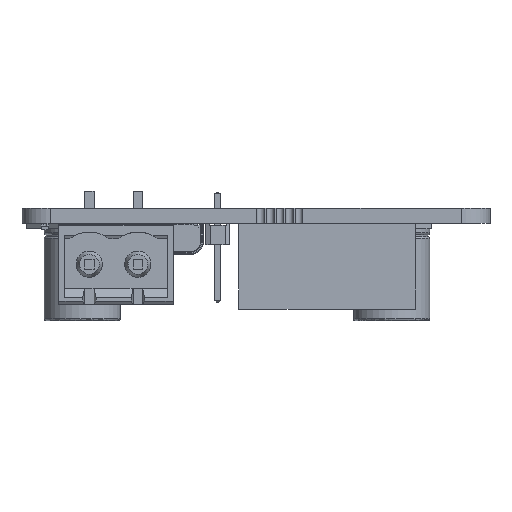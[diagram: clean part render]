
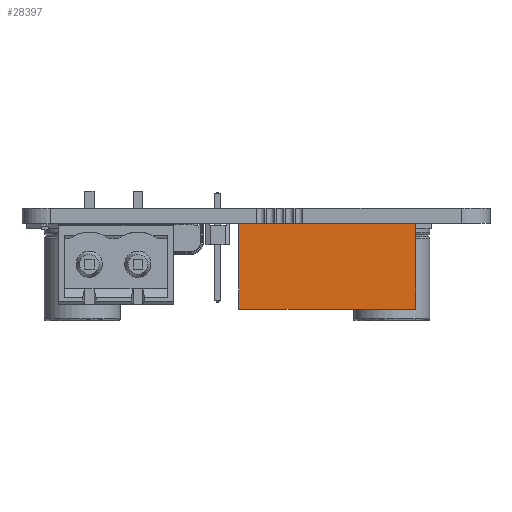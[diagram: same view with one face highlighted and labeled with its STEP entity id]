
A CAD part, front view. The second image highlights one B-rep face of the part: STEP entity #28397.
In plain terms, the highlighted planar face has unit normal (0, -1, 0).
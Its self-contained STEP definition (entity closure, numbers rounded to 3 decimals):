
#2251=FACE_OUTER_BOUND('',#3774,.T.);
#3774=EDGE_LOOP('',(#19540,#19541,#19542,#19543));
#5468=LINE('',#40772,#8818);
#5470=LINE('',#40776,#8820);
#5471=LINE('',#40778,#8821);
#5472=LINE('',#40779,#8822);
#8818=VECTOR('',#32916,1.);
#8820=VECTOR('',#32920,1.);
#8821=VECTOR('',#32921,1.);
#8822=VECTOR('',#32922,1.);
#12123=VERTEX_POINT('',#40769);
#12124=VERTEX_POINT('',#40771);
#12125=VERTEX_POINT('',#40775);
#12126=VERTEX_POINT('',#40777);
#14988=EDGE_CURVE('',#12124,#12123,#5468,.T.);
#14990=EDGE_CURVE('',#12123,#12125,#5470,.T.);
#14991=EDGE_CURVE('',#12126,#12125,#5471,.T.);
#14992=EDGE_CURVE('',#12124,#12126,#5472,.T.);
#19540=ORIENTED_EDGE('',*,*,#14988,.T.);
#19541=ORIENTED_EDGE('',*,*,#14990,.T.);
#19542=ORIENTED_EDGE('',*,*,#14991,.F.);
#19543=ORIENTED_EDGE('',*,*,#14992,.F.);
#27248=PLANE('',#30140);
#28397=ADVANCED_FACE('',(#2251),#27248,.T.);
#30140=AXIS2_PLACEMENT_3D('',#40774,#32918,#32919);
#32916=DIRECTION('',(0.,0.,1.));
#32918=DIRECTION('center_axis',(0.,-1.,
0.));
#32919=DIRECTION('ref_axis',(-1.,0.,0.));
#32920=DIRECTION('',(-1.,0.,0.));
#32921=DIRECTION('',(0.,0.,1.));
#32922=DIRECTION('',(-1.,0.,0.));
#40769=CARTESIAN_POINT('',(9.25,-9.1,9.));
#40771=CARTESIAN_POINT('',(9.25,-9.1,0.));
#40772=CARTESIAN_POINT('',(9.25,-9.1,0.));
#40774=CARTESIAN_POINT('Origin',(9.25,-9.1,0.));
#40775=CARTESIAN_POINT('',(-9.25,-9.1,9.));
#40776=CARTESIAN_POINT('',(9.25,-9.1,9.));
#40777=CARTESIAN_POINT('',(-9.25,-9.1,0.));
#40778=CARTESIAN_POINT('',(-9.25,-9.1,0.));
#40779=CARTESIAN_POINT('',(9.25,-9.1,0.));
